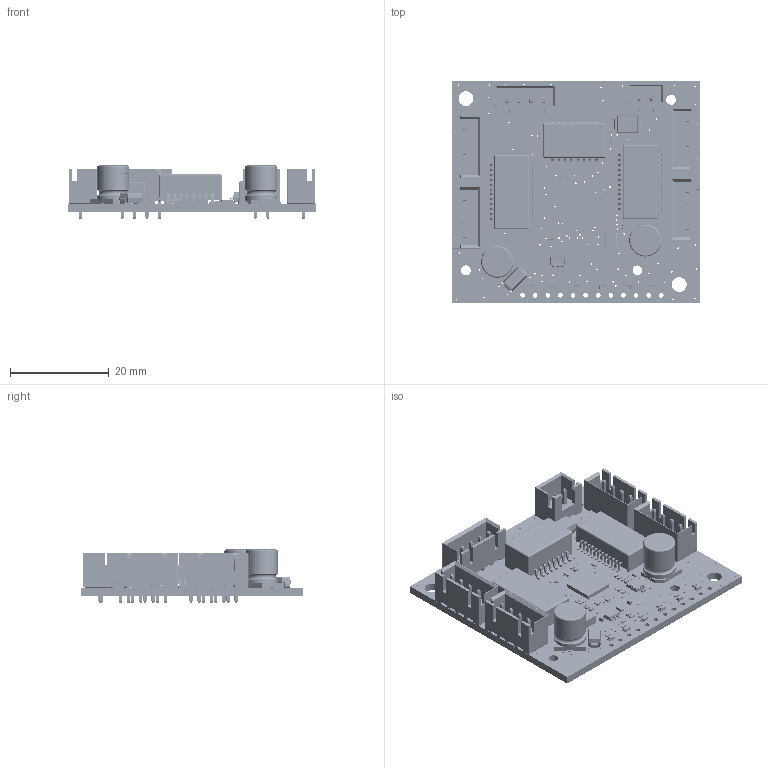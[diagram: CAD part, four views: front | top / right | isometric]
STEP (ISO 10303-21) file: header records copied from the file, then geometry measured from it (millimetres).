
FILE_DESCRIPTION(('Designed by EasyEDA Pro'),'2;1');
FILE_NAME('Open CASCADE Shape Model','2026-07-25T10:36:07',('Author'),( 'Open CASCADE'),'Open CASCADE STEP processor 7.8','Open CASCADE 7.8' ,'Unknown');
FILE_SCHEMA(('AUTOMOTIVE_DESIGN { 1 0 10303 214 1 1 1 1 }'));
Length unit declared in the file: millimetre
Products named in the file (444): EasyEDA PCB Model~EoNS; Board~EoNS; TopCopper~EoNS; BottomCopper~EoNS; TopSilkscreen~EoNS; BottomSilkscreen~EoNS; TopFpcStiffener~EoNS; BottomFpcStiffener~EoNS; C1~1206~C1206_L3.2-W1.6-H1.3_1~EoNS; 1206~C1206_L3.2-W1.6-H1.3_1~EoNS; C2~1206~C1206_L3.2-W1.6-H1.3_1~EoNS; L10A~IND-SMD_L4.1-W4.1_FEXL0420~Hgju; L5~L10A~IND-SMD_L4.1-W4.1_FEXL0420~gvHS; LED0603N~LED-0603_G~3E9Y; LED7~LED0603N~LED-0603_G~lXL7; LED8~LED0603N~LED-0603_G~FpOA; LED9~LED0603N~LED-0603_G~CcCR; LED10~LED0603N~LED-0603_G~GUJ2; LED11~LED0603N~LED-0603_G~X9ki; LED12~LED0603N~LED-0603_G~wwAw; SMB~SMB~Ya8h; D2~SMB~SMB~n6WI; 0402~R0402_L1.0-W0.5-H0.4~nZns; R5~0402~R0402_L1.0-W0.5-H0.4~9VTC; R1~0402~R0402_L1.0-W0.5-H0.4~jIYP; R2~0402~R0402_L1.0-W0.5-H0.4~Tr8v; R3~0402~R0402_L1.0-W0.5-H0.4~aWRK; R4~0402~R0402_L1.0-W0.5-H0.4~Z680; R6~0402~R0402_L1.0-W0.5-H0.4~QyUM; R7~0402~R0402_L1.0-W0.5-H0.4~SNfm; R8~0402~R0402_L1.0-W0.5-H0.4~9nu1; R9~0402~R0402_L1.0-W0.5-H0.4~TKaF; R10~0402~R0402_L1.0-W0.5-H0.4~2Mh3; R11~0402~R0402_L1.0-W0.5-H0.4~UNqc; R12~0402~R0402_L1.0-W0.5-H0.4~whfg; R13~0402~R0402_L1.0-W0.5-H0.4~9Si6; R14~0402~R0402_L1.0-W0.5-H0.4~spxu; R15~0402~R0402_L1.0-W0.5-H0.4~2GND; R16~0402~R0402_L1.0-W0.5-H0.4~ZMMd; R17~0402~R0402_L1.0-W0.5-H0.4~OAPv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
Assembly tree (488 placements, depth 3):
  EasyEDA PCB Model~EoNS
    Board~EoNS
    TopCopper~EoNS
      TopCopper~EoNS
      TopCopper~EoNS
      TopCopper~EoNS
      TopCopper~EoNS
      TopCopper~EoNS
      TopCopper~EoNS
      TopCopper~EoNS
      TopCopper~EoNS
      TopCopper~EoNS
      TopCopper~EoNS
      TopCopper~EoNS
      TopCopper~EoNS
      TopCopper~EoNS
      TopCopper~EoNS
      TopCopper~EoNS
      TopCopper~EoNS
      TopCopper~EoNS
      TopCopper~EoNS
      TopCopper~EoNS
      TopCopper~EoNS
      TopCopper~EoNS
      TopCopper~EoNS
      TopCopper~EoNS
      TopCopper~EoNS
      TopCopper~EoNS
      TopCopper~EoNS
      TopCopper~EoNS
      TopCopper~EoNS
      TopCopper~EoNS
      TopCopper~EoNS
      TopCopper~EoNS
      TopCopper~EoNS
      TopCopper~EoNS
      TopCopper~EoNS
      TopCopper~EoNS
      TopCopper~EoNS
      TopCopper~EoNS
      TopCopper~EoNS
      TopCopper~EoNS
      TopCopper~EoNS
      TopCopper~EoNS
      TopCopper~EoNS
      TopCopper~EoNS
      TopCopper~EoNS
      TopCopper~EoNS
      TopCopper~EoNS
      TopCopper~EoNS
      TopCopper~EoNS
      TopCopper~EoNS
      TopCopper~EoNS
      TopCopper~EoNS
      TopCopper~EoNS
      TopCopper~EoNS
      TopCopper~EoNS
      TopCopper~EoNS
      TopCopper~EoNS
      TopCopper~EoNS
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Bounding box: 49.97 x 44.97 x 10.72 mm (x, y, z)
Volume: 6741.2 mm3; surface area: 14273 mm2
Topology: 268 solids, 627 shells, 20127 faces, 64226 edges, 46144 vertices
Faces by surface type: plane 12169, bspline 6114, cylinder 1726, sphere 94, torus 24
Full cylindrical faces by diameter (mm): 0.189 x1
Entity records: 370572 total; most frequent: CARTESIAN_POINT 83805, ORIENTED_EDGE 43046, DIRECTION 39492, EDGE_CURVE 26656, VERTEX_POINT 21270, LINE 16562, VECTOR 16562, AXIS2_PLACEMENT_3D 11465
